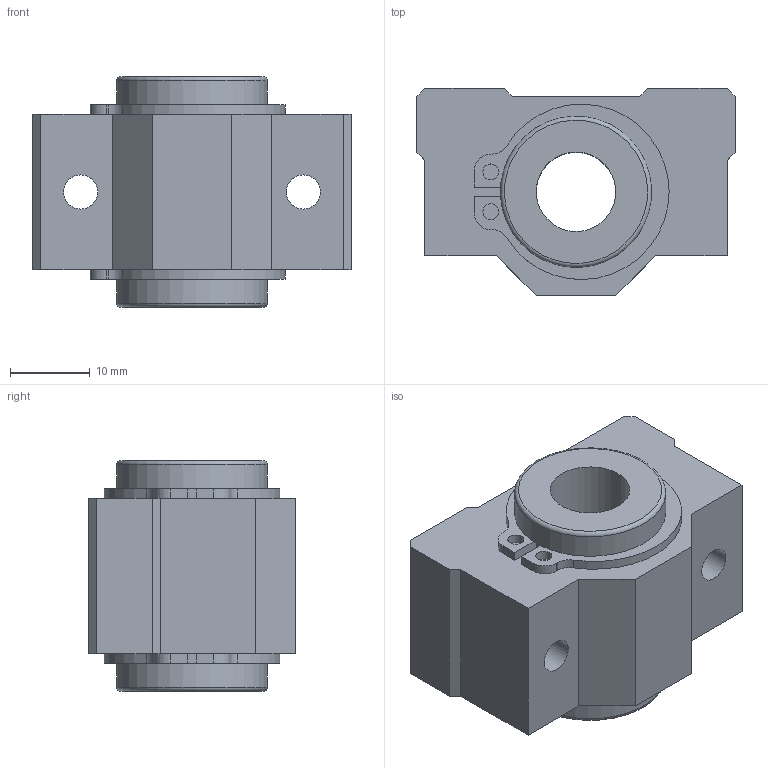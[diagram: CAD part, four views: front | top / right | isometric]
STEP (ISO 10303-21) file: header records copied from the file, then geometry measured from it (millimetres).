
FILE_DESCRIPTION(('STEP AP203'),'1');
FILE_NAME('//192.168.1.1/share/s-4 技術開発/s-4-4_CAD/s-4-4-3_見直し済み/008 修正済み/LC-C/LC-C_TOP/LC-10VCUU.step','2022-05-19T01:28:34',(' '),(' '),'Spatial InterOp 3D',' ',' ');
FILE_SCHEMA(('CONFIG_CONTROL_DESIGN'));
Length unit declared in the file: millimetre
Products named in the file (4): 1; 2; 3; 4
Bounding box: 40 x 26 x 29 mm (x, y, z)
Volume: 17068.3 mm3; surface area: 9337.1 mm2
Topology: 4 solids, 4 shells, 71 faces, 178 edges, 119 vertices
Faces by surface type: plane 42, cylinder 27, torus 2
Full cylindrical faces by diameter (mm): 2 x4, 4.3 x4, 10 x1, 18 x2, 19 x4
Entity records: 2212 total; most frequent: DIRECTION 360, CARTESIAN_POINT 345, ORIENTED_EDGE 312, EDGE_CURVE 156, AXIS2_PLACEMENT_3D 129, VERTEX_POINT 114, EDGE_LOOP 108, LINE 102
